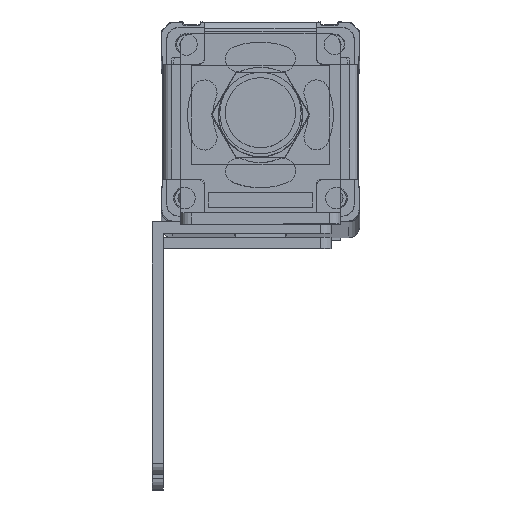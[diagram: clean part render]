
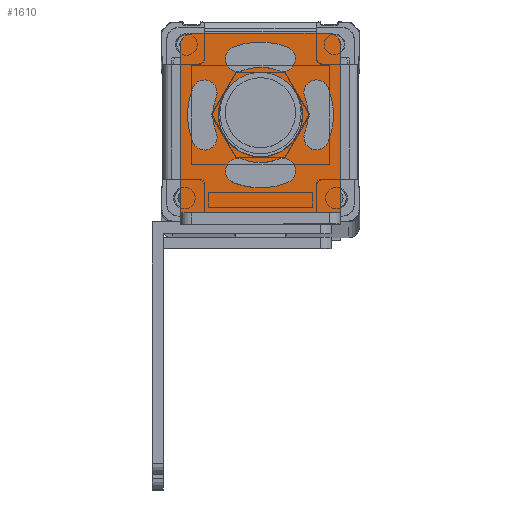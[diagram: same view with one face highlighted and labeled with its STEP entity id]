
A CAD part, top view. The second image highlights one B-rep face of the part: STEP entity #1610.
In plain terms, the highlighted planar face has unit normal (0, 0, 1).
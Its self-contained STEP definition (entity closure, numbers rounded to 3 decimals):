
#470=FACE_BOUND('',#3095,.T.);
#471=FACE_BOUND('',#3096,.T.);
#472=FACE_BOUND('',#3097,.T.);
#473=FACE_BOUND('',#3098,.T.);
#474=FACE_BOUND('',#3099,.T.);
#475=FACE_BOUND('',#3100,.T.);
#1046=CIRCLE('',#12267,7.5);
#1047=CIRCLE('',#12269,7.5);
#1048=CIRCLE('',#12271,2.);
#1049=CIRCLE('',#12272,2.);
#1050=CIRCLE('',#12273,8.5);
#1051=CIRCLE('',#12274,2.25);
#1052=CIRCLE('',#12275,13.);
#1053=CIRCLE('',#12276,2.25);
#1054=CIRCLE('',#12277,13.);
#1055=CIRCLE('',#12278,2.25);
#1056=CIRCLE('',#12279,8.5);
#1057=CIRCLE('',#12280,2.25);
#1058=CIRCLE('',#12281,13.);
#1059=CIRCLE('',#12282,2.25);
#1060=CIRCLE('',#12283,8.5);
#1061=CIRCLE('',#12284,2.25);
#1062=CIRCLE('',#12285,13.);
#1063=CIRCLE('',#12286,2.25);
#1064=CIRCLE('',#12287,8.5);
#1065=CIRCLE('',#12288,2.25);
#1610=ADVANCED_FACE('',(#470,#471,#472,#473,#474,#475),#1961,.T.);
#1961=PLANE('',#12289);
#3095=EDGE_LOOP('',(#6187,#6188,#6189,#6190,#6191,#6192));
#3096=EDGE_LOOP('',(#6193,#6194));
#3097=EDGE_LOOP('',(#6195,#6196,#6197,#6198));
#3098=EDGE_LOOP('',(#6199,#6200,#6201,#6202));
#3099=EDGE_LOOP('',(#6203,#6204,#6205,#6206));
#3100=EDGE_LOOP('',(#6207,#6208,#6209,#6210));
#6187=ORIENTED_EDGE('',*,*,#8998,.T.);
#6188=ORIENTED_EDGE('',*,*,#8999,.T.);
#6189=ORIENTED_EDGE('',*,*,#9000,.T.);
#6190=ORIENTED_EDGE('',*,*,#9001,.F.);
#6191=ORIENTED_EDGE('',*,*,#9002,.T.);
#6192=ORIENTED_EDGE('',*,*,#9003,.T.);
#6193=ORIENTED_EDGE('',*,*,#8997,.F.);
#6194=ORIENTED_EDGE('',*,*,#8995,.F.);
#6195=ORIENTED_EDGE('',*,*,#9004,.F.);
#6196=ORIENTED_EDGE('',*,*,#9005,.F.);
#6197=ORIENTED_EDGE('',*,*,#9006,.F.);
#6198=ORIENTED_EDGE('',*,*,#9007,.F.);
#6199=ORIENTED_EDGE('',*,*,#9008,.F.);
#6200=ORIENTED_EDGE('',*,*,#9009,.F.);
#6201=ORIENTED_EDGE('',*,*,#9010,.F.);
#6202=ORIENTED_EDGE('',*,*,#9011,.F.);
#6203=ORIENTED_EDGE('',*,*,#9012,.F.);
#6204=ORIENTED_EDGE('',*,*,#9013,.F.);
#6205=ORIENTED_EDGE('',*,*,#9014,.F.);
#6206=ORIENTED_EDGE('',*,*,#9015,.F.);
#6207=ORIENTED_EDGE('',*,*,#9016,.F.);
#6208=ORIENTED_EDGE('',*,*,#9017,.F.);
#6209=ORIENTED_EDGE('',*,*,#9018,.F.);
#6210=ORIENTED_EDGE('',*,*,#9019,.F.);
#7415=VERTEX_POINT('',#18810);
#7416=VERTEX_POINT('',#18812);
#7417=VERTEX_POINT('',#18818);
#7418=VERTEX_POINT('',#18819);
#7419=VERTEX_POINT('',#18821);
#7420=VERTEX_POINT('',#18823);
#7421=VERTEX_POINT('',#18825);
#7422=VERTEX_POINT('',#18827);
#7423=VERTEX_POINT('',#18830);
#7424=VERTEX_POINT('',#18831);
#7425=VERTEX_POINT('',#18833);
#7426=VERTEX_POINT('',#18835);
#7427=VERTEX_POINT('',#18838);
#7428=VERTEX_POINT('',#18839);
#7429=VERTEX_POINT('',#18841);
#7430=VERTEX_POINT('',#18843);
#7431=VERTEX_POINT('',#18846);
#7432=VERTEX_POINT('',#18847);
#7433=VERTEX_POINT('',#18849);
#7434=VERTEX_POINT('',#18851);
#7435=VERTEX_POINT('',#18854);
#7436=VERTEX_POINT('',#18855);
#7437=VERTEX_POINT('',#18857);
#7438=VERTEX_POINT('',#18859);
#8995=EDGE_CURVE('',#7415,#7416,#1046,.T.);
#8997=EDGE_CURVE('',#7416,#7415,#1047,.T.);
#8998=EDGE_CURVE('',#7417,#7418,#10119,.T.);
#8999=EDGE_CURVE('',#7418,#7419,#1048,.T.);
#9000=EDGE_CURVE('',#7419,#7420,#10120,.T.);
#9001=EDGE_CURVE('',#7421,#7420,#10121,.T.);
#9002=EDGE_CURVE('',#7421,#7422,#10122,.T.);
#9003=EDGE_CURVE('',#7422,#7417,#1049,.T.);
#9004=EDGE_CURVE('',#7423,#7424,#1050,.T.);
#9005=EDGE_CURVE('',#7425,#7423,#1051,.T.);
#9006=EDGE_CURVE('',#7426,#7425,#1052,.T.);
#9007=EDGE_CURVE('',#7424,#7426,#1053,.T.);
#9008=EDGE_CURVE('',#7427,#7428,#1054,.T.);
#9009=EDGE_CURVE('',#7429,#7427,#1055,.T.);
#9010=EDGE_CURVE('',#7430,#7429,#1056,.T.);
#9011=EDGE_CURVE('',#7428,#7430,#1057,.T.);
#9012=EDGE_CURVE('',#7431,#7432,#1058,.T.);
#9013=EDGE_CURVE('',#7433,#7431,#1059,.T.);
#9014=EDGE_CURVE('',#7434,#7433,#1060,.T.);
#9015=EDGE_CURVE('',#7432,#7434,#1061,.T.);
#9016=EDGE_CURVE('',#7435,#7436,#1062,.T.);
#9017=EDGE_CURVE('',#7437,#7435,#1063,.T.);
#9018=EDGE_CURVE('',#7438,#7437,#1064,.T.);
#9019=EDGE_CURVE('',#7436,#7438,#1065,.T.);
#10119=LINE('',#18817,#11206);
#10120=LINE('',#18822,#11207);
#10121=LINE('',#18824,#11208);
#10122=LINE('',#18826,#11209);
#11206=VECTOR('',#15419,1.);
#11207=VECTOR('',#15422,1.);
#11208=VECTOR('',#15423,1.);
#11209=VECTOR('',#15424,1.);
#12267=AXIS2_PLACEMENT_3D('',#18811,#15410,#15411);
#12269=AXIS2_PLACEMENT_3D('',#18815,#15415,#15416);
#12271=AXIS2_PLACEMENT_3D('',#18820,#15420,#15421);
#12272=AXIS2_PLACEMENT_3D('',#18828,#15425,#15426);
#12273=AXIS2_PLACEMENT_3D('',#18829,#15427,#15428);
#12274=AXIS2_PLACEMENT_3D('',#18832,#15429,#15430);
#12275=AXIS2_PLACEMENT_3D('',#18834,#15431,#15432);
#12276=AXIS2_PLACEMENT_3D('',#18836,#15433,#15434);
#12277=AXIS2_PLACEMENT_3D('',#18837,#15435,#15436);
#12278=AXIS2_PLACEMENT_3D('',#18840,#15437,#15438);
#12279=AXIS2_PLACEMENT_3D('',#18842,#15439,#15440);
#12280=AXIS2_PLACEMENT_3D('',#18844,#15441,#15442);
#12281=AXIS2_PLACEMENT_3D('',#18845,#15443,#15444);
#12282=AXIS2_PLACEMENT_3D('',#18848,#15445,#15446);
#12283=AXIS2_PLACEMENT_3D('',#18850,#15447,#15448);
#12284=AXIS2_PLACEMENT_3D('',#18852,#15449,#15450);
#12285=AXIS2_PLACEMENT_3D('',#18853,#15451,#15452);
#12286=AXIS2_PLACEMENT_3D('',#18856,#15453,#15454);
#12287=AXIS2_PLACEMENT_3D('',#18858,#15455,#15456);
#12288=AXIS2_PLACEMENT_3D('',#18860,#15457,#15458);
#12289=AXIS2_PLACEMENT_3D('',#18861,#15459,#15460);
#15410=DIRECTION('',(0.,0.,1.));
#15411=DIRECTION('',(-1.,-0.002,0.));
#15415=DIRECTION('',(0.,0.,1.));
#15416=DIRECTION('',(1.,0.002,0.));
#15419=DIRECTION('',(-1.,-0.002,0.));
#15420=DIRECTION('',(0.,0.,1.));
#15421=DIRECTION('',(-0.002,1.,0.));
#15422=DIRECTION('',(0.002,-1.,0.));
#15423=DIRECTION('',(-1.,-0.002,0.));
#15424=DIRECTION('',(-0.002,1.,0.));
#15425=DIRECTION('',(0.,0.,1.));
#15426=DIRECTION('',(1.,0.002,0.));
#15427=DIRECTION('',(0.,0.,-1.));
#15428=DIRECTION('',(0.928,0.374,0.));
#15429=DIRECTION('',(0.,0.,1.));
#15430=DIRECTION('',(0.928,0.374,0.));
#15431=DIRECTION('',(0.,0.,1.));
#15432=DIRECTION('',(0.929,-0.371,0.));
#15433=DIRECTION('',(0.,0.,1.));
#15434=DIRECTION('',(-0.929,0.371,0.));
#15435=DIRECTION('',(0.,0.,1.));
#15436=DIRECTION('',(-0.929,0.371,0.));
#15437=DIRECTION('',(0.,0.,1.));
#15438=DIRECTION('',(0.929,-0.371,0.));
#15439=DIRECTION('',(0.,0.,-1.));
#15440=DIRECTION('',(-0.928,-0.374,0.));
#15441=DIRECTION('',(0.,0.,1.));
#15442=DIRECTION('',(-0.928,-0.374,0.));
#15443=DIRECTION('',(0.,0.,1.));
#15444=DIRECTION('',(-0.371,-0.929,0.));
#15445=DIRECTION('',(0.,0.,1.));
#15446=DIRECTION('',(0.371,0.929,0.));
#15447=DIRECTION('',(0.,0.,-1.));
#15448=DIRECTION('',(0.374,-0.928,0.));
#15449=DIRECTION('',(0.,0.,1.));
#15450=DIRECTION('',(0.374,-0.928,0.));
#15451=DIRECTION('',(0.,0.,1.));
#15452=DIRECTION('',(0.371,0.929,0.));
#15453=DIRECTION('',(0.,0.,1.));
#15454=DIRECTION('',(-0.371,-0.929,0.));
#15455=DIRECTION('',(0.,0.,-1.));
#15456=DIRECTION('',(-0.374,0.928,0.));
#15457=DIRECTION('',(0.,0.,1.));
#15458=DIRECTION('',(-0.374,0.928,0.));
#15459=DIRECTION('',(0.,0.,1.));
#15460=DIRECTION('',(-1.,-0.002,0.));
#18810=CARTESIAN_POINT('',(243.846,-38.579,283.445));
#18811=CARTESIAN_POINT('',(251.346,-38.566,283.445));
#18812=CARTESIAN_POINT('',(258.846,-38.553,283.445));
#18815=CARTESIAN_POINT('',(251.346,-38.566,283.445));
#18817=CARTESIAN_POINT('',(263.572,-24.045,283.445));
#18818=CARTESIAN_POINT('',(263.572,-24.045,283.445));
#18819=CARTESIAN_POINT('',(239.072,-24.087,283.445));
#18820=CARTESIAN_POINT('',(239.075,-26.087,283.445));
#18821=CARTESIAN_POINT('',(237.075,-26.09,283.445));
#18822=CARTESIAN_POINT('',(237.075,-26.09,283.445));
#18823=CARTESIAN_POINT('',(237.126,-56.09,283.445));
#18824=CARTESIAN_POINT('',(265.626,-56.042,283.445));
#18825=CARTESIAN_POINT('',(265.626,-56.042,283.445));
#18826=CARTESIAN_POINT('',(265.626,-56.042,283.445));
#18827=CARTESIAN_POINT('',(265.575,-26.042,283.445));
#18828=CARTESIAN_POINT('',(263.575,-26.045,283.445));
#18829=CARTESIAN_POINT('',(251.346,-38.566,283.445));
#18830=CARTESIAN_POINT('',(259.231,-35.39,283.445));
#18831=CARTESIAN_POINT('',(259.241,-41.715,283.445));
#18832=CARTESIAN_POINT('',(261.318,-34.549,283.445));
#18833=CARTESIAN_POINT('',(263.405,-33.708,283.445));
#18834=CARTESIAN_POINT('',(251.346,-38.566,283.445));
#18835=CARTESIAN_POINT('',(263.421,-43.383,283.445));
#18836=CARTESIAN_POINT('',(261.331,-42.549,283.445));
#18837=CARTESIAN_POINT('',(251.346,-38.566,283.445));
#18838=CARTESIAN_POINT('',(239.272,-33.749,283.445));
#18839=CARTESIAN_POINT('',(239.288,-43.423,283.445));
#18840=CARTESIAN_POINT('',(241.362,-34.583,283.445));
#18841=CARTESIAN_POINT('',(243.451,-35.416,283.445));
#18842=CARTESIAN_POINT('',(251.346,-38.566,283.445));
#18843=CARTESIAN_POINT('',(243.462,-41.742,283.445));
#18844=CARTESIAN_POINT('',(241.375,-42.583,283.445));
#18845=CARTESIAN_POINT('',(251.346,-38.566,283.445));
#18846=CARTESIAN_POINT('',(246.529,-50.641,283.445));
#18847=CARTESIAN_POINT('',(256.204,-50.624,283.445));
#18848=CARTESIAN_POINT('',(247.363,-48.551,283.445));
#18849=CARTESIAN_POINT('',(248.197,-46.461,283.445));
#18850=CARTESIAN_POINT('',(251.346,-38.566,283.445));
#18851=CARTESIAN_POINT('',(254.522,-46.45,283.445));
#18852=CARTESIAN_POINT('',(255.363,-48.537,283.445));
#18853=CARTESIAN_POINT('',(251.346,-38.566,283.445));
#18854=CARTESIAN_POINT('',(256.163,-26.491,283.445));
#18855=CARTESIAN_POINT('',(246.489,-26.508,283.445));
#18856=CARTESIAN_POINT('',(255.33,-28.581,283.445));
#18857=CARTESIAN_POINT('',(254.496,-30.671,283.445));
#18858=CARTESIAN_POINT('',(251.346,-38.566,283.445));
#18859=CARTESIAN_POINT('',(248.17,-30.682,283.445));
#18860=CARTESIAN_POINT('',(247.33,-28.595,283.445));
#18861=CARTESIAN_POINT('',(251.346,-38.566,283.445));
